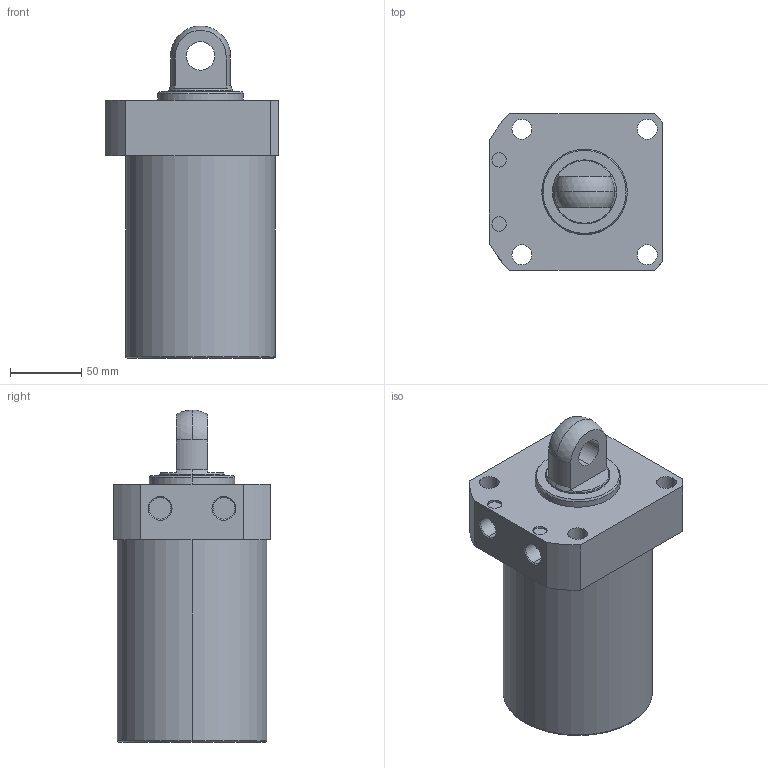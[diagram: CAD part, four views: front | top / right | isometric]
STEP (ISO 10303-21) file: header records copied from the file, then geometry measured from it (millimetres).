
FILE_DESCRIPTION (( 'STEP AP203' ), '1' );
FILE_NAME ('CLLR-105CP-095.STEP', '2019-12-18T08:04:27', ( '' ), ( '' ), 'SwSTEP 2.0', 'SolidWorks 2015', '' );
FILE_SCHEMA (( 'CONFIG_CONTROL_DESIGN' ));
Length unit declared in the file: millimetre
Products named in the file (1): CLLR-105CP-095
Bounding box: 122 x 110 x 233 mm (x, y, z)
Volume: 1755683.3 mm3; surface area: 104368 mm2
Topology: 1 solids, 1 shells, 59 faces, 139 edges, 89 vertices
Faces by surface type: cylinder 29, plane 18, cone 8, torus 2, sphere 2
Entity records: 1822 total; most frequent: DIRECTION 331, CARTESIAN_POINT 300, ORIENTED_EDGE 278, EDGE_CURVE 139, AXIS2_PLACEMENT_3D 136, VERTEX_POINT 89, CIRCLE 76, EDGE_LOOP 76
